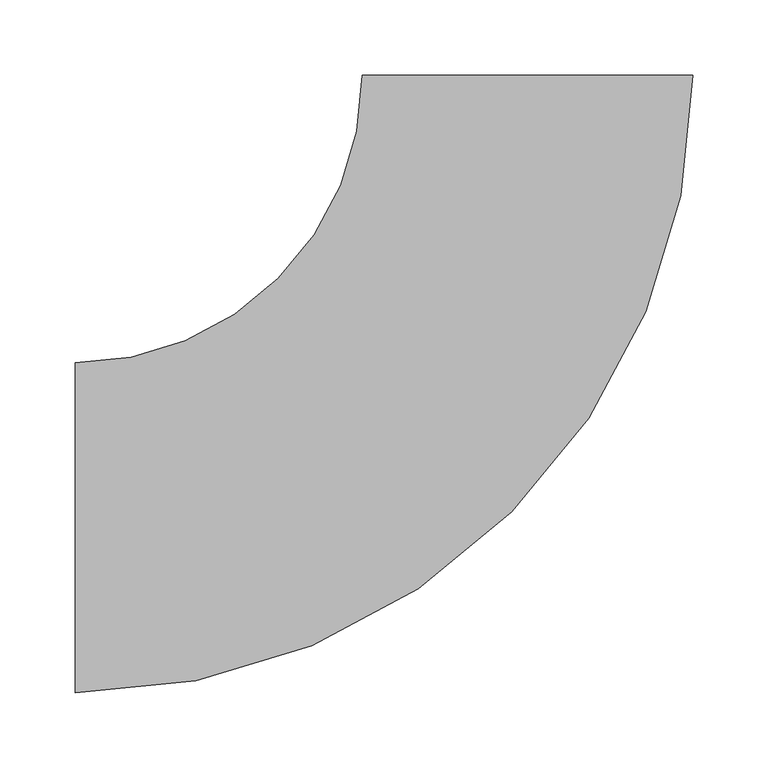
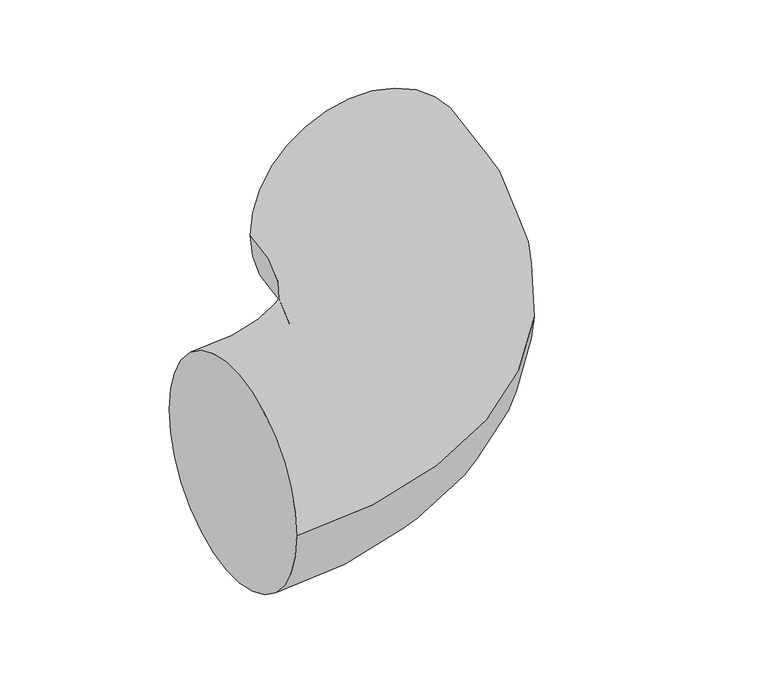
"""IFC4 building model written with IfcOpenShell, lengths in millimetres: pipe fitting geometry, ADSK_ДетальСтальнаяСварная_Отвод_ГОСТ17375-2001 : Исполнение 2."""

from ifc_helpers import new_model, si_unit, point, frame, origin, place, context, project, spatial, circle_curve, ellipse_curve, trimmed, source, transform, mapped, element, save
from ifc_brep_helpers import plane_surface, revolved_surface, advanced_brep


def pipe_fitting_8aeee95a(model_context):
    return source(origin(), model_context, "Body", "AdvancedBrep", [
        advanced_brep(
        [(-300.0, -109.5, 0.0), (-300.0, 109.5, 0.0), (109.5, 300.0, 0.0), (-109.5, 300.0, 0.0)],
        [
            (0, 1, circle_curve(frame((-300.0, 0.0, 0.0), z_axis=(-1.0, 0.0, 0.0), x_axis=(0.0, 1.0, 0.0)), 109.5)),
            (1, 0, circle_curve(frame((-300.0, 0.0, 0.0), z_axis=(-1.0, 0.0, 0.0), x_axis=(0.0, 1.0, 0.0)), 109.5)),
            (2, 3, circle_curve(frame((0.0, 300.0, 0.0), z_axis=(0.0, 1.0, 0.0), x_axis=(-1.0, 0.0, 0.0)), 109.5)),
            (3, 2, circle_curve(frame((0.0, 300.0, 0.0), z_axis=(0.0, 1.0, 0.0), x_axis=(-1.0, 0.0, 0.0)), 109.5)),
            (3, 1, circle_curve(frame((-300.0, 300.0, 0.0), z_axis=(0.0, 0.0, -1.0), x_axis=(0.0, -1.0, 0.0)), 190.5)),
            (0, 2, circle_curve(frame((-300.0, 300.0, 0.0), z_axis=(0.0, 0.0, 1.0), x_axis=(0.0, -1.0, 0.0)), 409.5)),
        ],
        [
            plane_surface(frame((-300.0, 0.0, 0.0), z_axis=(-1.0, 0.0, 0.0), x_axis=(0.0, 0.0, 1.0))),
            plane_surface(frame((0.0, 300.0, 0.0), z_axis=(0.0, 1.0, 0.0), x_axis=(0.0, 0.0, 1.0))),
            revolved_surface(trimmed(ellipse_curve(frame((-300.0, 0.0, 0.0), z_axis=(-1.0, 0.0, 0.0), x_axis=(0.0, 1.0, 0.0)), 109.5, 109.5), [point((-300.0, -109.5, 0.0))], [point((-300.0, 109.5, 0.0))], True, "CARTESIAN"), (-300.0, 300.0, 0.0), (0.0, 0.0, 1.0)),
            revolved_surface(trimmed(ellipse_curve(frame((-300.0, 0.0, 0.0), z_axis=(-1.0, 0.0, 0.0), x_axis=(0.0, 1.0, 0.0)), 109.5, 109.5), [point((-300.0, 109.5, 0.0))], [point((-300.0, -109.5, 0.0))], True, "CARTESIAN"), (-300.0, 300.0, 0.0), (0.0, 0.0, 1.0)),
        ],
        [
            (0, [[1, 2]]),
            (1, [[3, 4]]),
            (2, [[5, -1, 6, -4]]),
            (3, [[-6, -2, -5, -3]]),
        ],
    ),
    ])


if __name__ == "__main__":
    model = new_model("IFC4")
    model_context = context("Model", 3, world=origin())
    ifc_project = project(units=[si_unit("LENGTHUNIT", "METRE", prefix="MILLI")], contexts=[model_context])
    site = spatial("IfcSite", under=ifc_project)
    building = spatial("IfcBuilding", under=site)
    placement = place(None, origin())
    pipe_fitting_shape = pipe_fitting_8aeee95a(model_context)
    element("IfcPipeFitting", 1, ObjectType="ADSK_ДетальСтальнаяСварная_Отвод_ГОСТ17375-2001 : Исполнение 2", at=placement, inside=building, context=model_context, shape_type="MappedRepresentation", body=[
        mapped(pipe_fitting_shape, transform((0.0, 0.0, 0.0), x_axis=(1.0, 0.0, 0.0), y_axis=(0.0, 1.0, 0.0), z_axis=(0.0, 0.0, 1.0))),
    ])
    save(model, "model.ifc")
